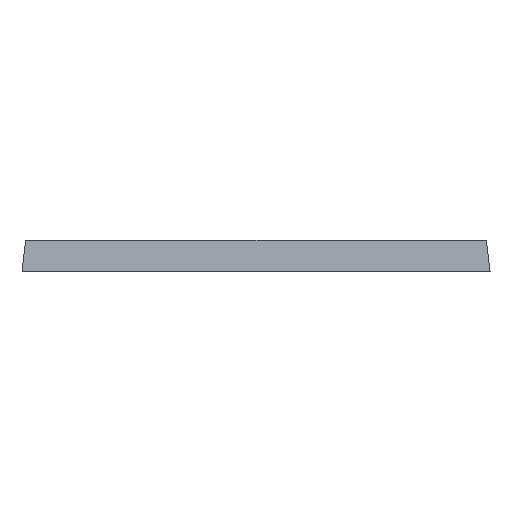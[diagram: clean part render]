
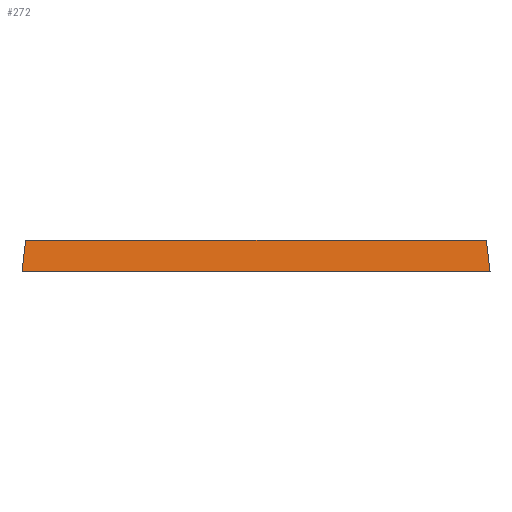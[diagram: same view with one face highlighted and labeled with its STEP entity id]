
A CAD part, left-side view. The second image highlights one B-rep face of the part: STEP entity #272.
In plain terms, the highlighted planar face has unit normal (-0.994, 0, 0.113).
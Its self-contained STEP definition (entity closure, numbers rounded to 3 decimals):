
#216=CARTESIAN_POINT('',(413.5,-13.5,15.6));
#217=VERTEX_POINT('',#216);
#224=CARTESIAN_POINT('',(414.639,-14.639,25.6));
#225=VERTEX_POINT('',#224);
#226=CARTESIAN_POINT('',(414.639,-14.639,25.6));
#227=DIRECTION('',(-0.112,0.112,-0.987));
#228=VECTOR('',#227,10.129);
#229=LINE('',#226,#228);
#230=EDGE_CURVE('',#225,#217,#229,.T.);
#242=CARTESIAN_POINT('',(413.5,-87.25,15.6));
#243=DIRECTION('',(-0.994,0.,0.113));
#244=DIRECTION('',(0.113,-0.,0.994));
#245=AXIS2_PLACEMENT_3D('',#242,#243,#244);
#246=PLANE('',#245);
#247=CARTESIAN_POINT('',(413.5,-161.,15.6));
#248=VERTEX_POINT('',#247);
#249=CARTESIAN_POINT('',(413.5,-161.,15.6));
#250=DIRECTION('',(0.,1.,0.));
#251=VECTOR('',#250,147.5);
#252=LINE('',#249,#251);
#253=EDGE_CURVE('',#248,#217,#252,.T.);
#254=ORIENTED_EDGE('',*,*,#253,.F.);
#255=CARTESIAN_POINT('',(414.639,-159.861,25.6));
#256=VERTEX_POINT('',#255);
#257=CARTESIAN_POINT('',(414.639,-159.861,25.6));
#258=DIRECTION('',(-0.112,-0.112,-0.987));
#259=VECTOR('',#258,10.129);
#260=LINE('',#257,#259);
#261=EDGE_CURVE('',#256,#248,#260,.T.);
#262=ORIENTED_EDGE('',*,*,#261,.F.);
#263=CARTESIAN_POINT('',(414.639,-159.861,25.6));
#264=DIRECTION('',(0.,1.,0.));
#265=VECTOR('',#264,145.221);
#266=LINE('',#263,#265);
#267=EDGE_CURVE('',#256,#225,#266,.T.);
#268=ORIENTED_EDGE('',*,*,#267,.T.);
#269=ORIENTED_EDGE('',*,*,#230,.T.);
#270=EDGE_LOOP('',(#254,#262,#268,#269));
#271=FACE_BOUND('',#270,.T.);
#272=ADVANCED_FACE('',(#271),#246,.T.);
